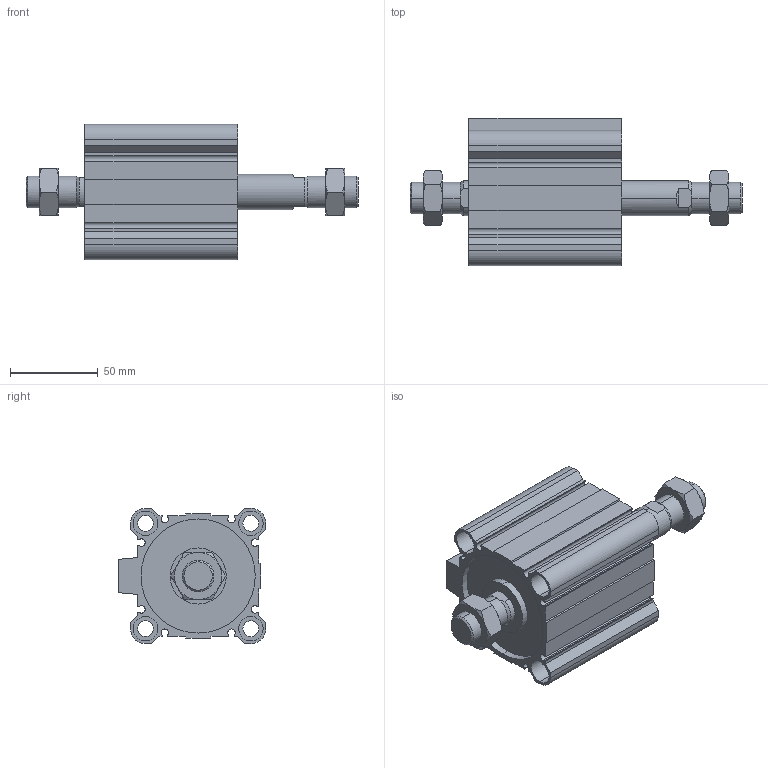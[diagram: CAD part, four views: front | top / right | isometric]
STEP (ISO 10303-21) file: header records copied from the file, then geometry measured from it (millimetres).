
FILE_DESCRIPTION (( 'STEP AP203' ), '1' );
FILE_NAME ('CCMB63-35M-P.STEP', '2020-08-10T11:50:25', ( '' ), ( '' ), 'SwSTEP 2.0', 'SolidWorks 2019', '' );
FILE_SCHEMA (( 'CONFIG_CONTROL_DESIGN' ));
Length unit declared in the file: millimetre
Products named in the file (1): CCMB63-35M-P
Bounding box: 189 x 84 x 77 mm (x, y, z)
Volume: 341151.7 mm3; surface area: 104899.7 mm2
Topology: 4 solids, 4 shells, 232 faces, 570 edges, 364 vertices
Faces by surface type: plane 110, cylinder 78, cone 44
Entity records: 7569 total; most frequent: CARTESIAN_POINT 1939, DIRECTION 1176, ORIENTED_EDGE 1140, EDGE_CURVE 570, AXIS2_PLACEMENT_3D 437, VERTEX_POINT 364, LINE 302, VECTOR 302
